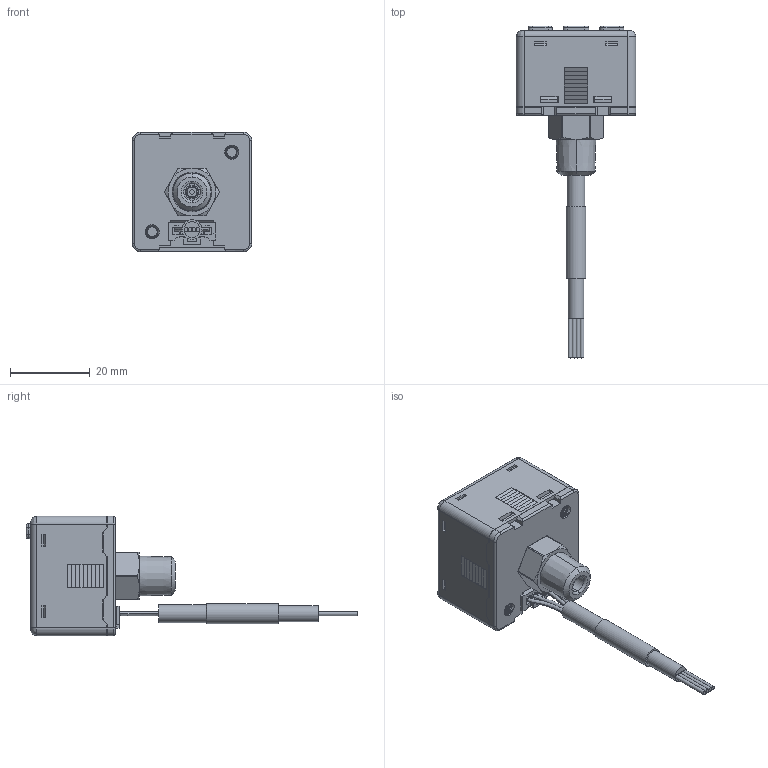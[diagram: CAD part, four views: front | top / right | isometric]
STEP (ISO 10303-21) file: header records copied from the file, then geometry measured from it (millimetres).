
FILE_DESCRIPTION(('STEP AP203'),'1');
FILE_NAME('-F1_F2_3D.stp','2025-06-18T08:05:36',(' '),(' '),'Spatial InterOp 3D',' ',' ');
FILE_SCHEMA(('CONFIG_CONTROL_DESIGN'));
Length unit declared in the file: millimetre
Products named in the file (1): 1
Bounding box: 30 x 83.35 x 30 mm (x, y, z)
Surface area: 7115.9 mm2 (no closed solid volume)
Topology: 0 solids, 748 shells, 775 faces, 3738 edges, 3714 vertices
Faces by surface type: plane 594, cylinder 112, bspline 32, torus 20, cone 17
Full cylindrical faces by diameter (mm): 1 x6, 4 x1, 4.5 x1, 5 x1
Entity records: 43703 total; most frequent: CARTESIAN_POINT 16024, DIRECTION 5298, ORIENTED_EDGE 3773, EDGE_CURVE 3728, VERTEX_POINT 3714, LINE 3082, VECTOR 3082, AXIS2_PLACEMENT_3D 1108
